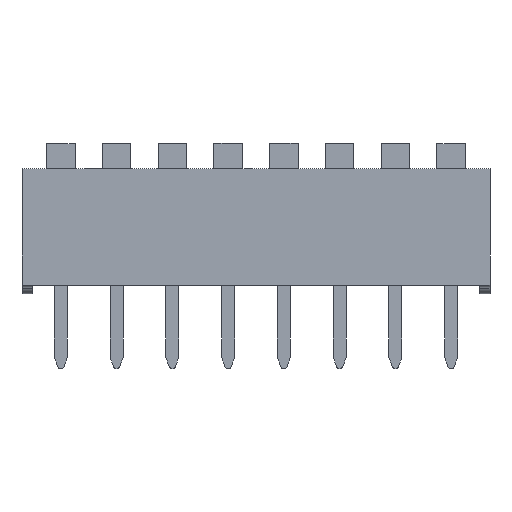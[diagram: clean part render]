
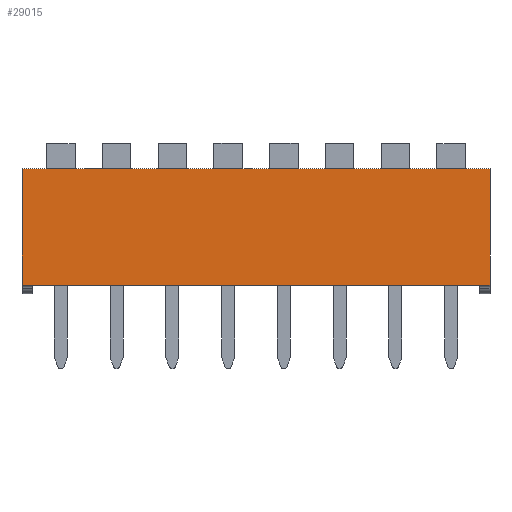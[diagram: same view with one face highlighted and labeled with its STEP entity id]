
A CAD part, front view. The second image highlights one B-rep face of the part: STEP entity #29015.
In plain terms, the highlighted planar face has unit normal (0, -1, 0).
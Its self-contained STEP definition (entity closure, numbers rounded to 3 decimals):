
#13108 = PLANE('',#13109);
#13109 = AXIS2_PLACEMENT_3D('',#13110,#13111,#13112);
#13110 = CARTESIAN_POINT('',(-1.77,8.76,0.4));
#13111 = DIRECTION('',(-1.,0.,0.));
#13112 = DIRECTION('',(0.,-1.,0.));
#13255 = VERTEX_POINT('',#13256);
#13256 = CARTESIAN_POINT('',(-1.77,-1.14,0.4));
#13270 = PLANE('',#13271);
#13271 = AXIS2_PLACEMENT_3D('',#13272,#13273,#13274);
#13272 = CARTESIAN_POINT('',(8.89,3.81,0.4));
#13273 = DIRECTION('',(0.,0.,1.));
#13274 = DIRECTION('',(1.,0.,0.));
#13282 = EDGE_CURVE('',#13255,#13283,#13285,.T.);
#13283 = VERTEX_POINT('',#13284);
#13284 = CARTESIAN_POINT('',(-1.77,-1.14,5.7));
#13285 = SURFACE_CURVE('',#13286,(#13290,#13297),.PCURVE_S1.);
#13286 = LINE('',#13287,#13288);
#13287 = CARTESIAN_POINT('',(-1.77,-1.14,0.4));
#13288 = VECTOR('',#13289,1.);
#13289 = DIRECTION('',(0.,0.,1.));
#13290 = PCURVE('',#13108,#13291);
#13291 = DEFINITIONAL_REPRESENTATION('',(#13292),#13296);
#13292 = LINE('',#13293,#13294);
#13293 = CARTESIAN_POINT('',(9.9,0.));
#13294 = VECTOR('',#13295,1.);
#13295 = DIRECTION('',(0.,1.));
#13296 = ( GEOMETRIC_REPRESENTATION_CONTEXT(2) 
PARAMETRIC_REPRESENTATION_CONTEXT() REPRESENTATION_CONTEXT('2D SPACE',''
  ) );
#13297 = PCURVE('',#13298,#13303);
#13298 = PLANE('',#13299);
#13299 = AXIS2_PLACEMENT_3D('',#13300,#13301,#13302);
#13300 = CARTESIAN_POINT('',(-1.77,-1.14,0.4));
#13301 = DIRECTION('',(0.,-1.,0.));
#13302 = DIRECTION('',(1.,0.,0.));
#13303 = DEFINITIONAL_REPRESENTATION('',(#13304),#13308);
#13304 = LINE('',#13305,#13306);
#13305 = CARTESIAN_POINT('',(0.,0.));
#13306 = VECTOR('',#13307,1.);
#13307 = DIRECTION('',(0.,1.));
#13308 = ( GEOMETRIC_REPRESENTATION_CONTEXT(2) 
PARAMETRIC_REPRESENTATION_CONTEXT() REPRESENTATION_CONTEXT('2D SPACE',''
  ) );
#13326 = PLANE('',#13327);
#13327 = AXIS2_PLACEMENT_3D('',#13328,#13329,#13330);
#13328 = CARTESIAN_POINT('',(8.89,3.81,5.7));
#13329 = DIRECTION('',(0.,0.,1.));
#13330 = DIRECTION('',(1.,0.,0.));
#15031 = EDGE_CURVE('',#13283,#15032,#15034,.T.);
#15032 = VERTEX_POINT('',#15033);
#15033 = CARTESIAN_POINT('',(19.55,-1.14,5.7));
#15034 = SURFACE_CURVE('',#15035,(#15039,#15046),.PCURVE_S1.);
#15035 = LINE('',#15036,#15037);
#15036 = CARTESIAN_POINT('',(19.55,-1.14,5.7));
#15037 = VECTOR('',#15038,1.);
#15038 = DIRECTION('',(1.,0.,0.));
#15039 = PCURVE('',#13326,#15040);
#15040 = DEFINITIONAL_REPRESENTATION('',(#15041),#15045);
#15041 = LINE('',#15042,#15043);
#15042 = CARTESIAN_POINT('',(10.66,-4.95));
#15043 = VECTOR('',#15044,1.);
#15044 = DIRECTION('',(1.,0.));
#15045 = ( GEOMETRIC_REPRESENTATION_CONTEXT(2) 
PARAMETRIC_REPRESENTATION_CONTEXT() REPRESENTATION_CONTEXT('2D SPACE',''
  ) );
#15046 = PCURVE('',#13298,#15047);
#15047 = DEFINITIONAL_REPRESENTATION('',(#15048),#15052);
#15048 = LINE('',#15049,#15050);
#15049 = CARTESIAN_POINT('',(21.32,5.3));
#15050 = VECTOR('',#15051,1.);
#15051 = DIRECTION('',(1.,0.));
#15052 = ( GEOMETRIC_REPRESENTATION_CONTEXT(2) 
PARAMETRIC_REPRESENTATION_CONTEXT() REPRESENTATION_CONTEXT('2D SPACE',''
  ) );
#15070 = PLANE('',#15071);
#15071 = AXIS2_PLACEMENT_3D('',#15072,#15073,#15074);
#15072 = CARTESIAN_POINT('',(19.55,-1.14,0.4));
#15073 = DIRECTION('',(1.,0.,0.));
#15074 = DIRECTION('',(0.,1.,0.));
#25519 = VERTEX_POINT('',#25520);
#25520 = CARTESIAN_POINT('',(19.55,-1.14,0.4));
#25541 = EDGE_CURVE('',#25519,#13255,#25542,.T.);
#25542 = SURFACE_CURVE('',#25543,(#25547,#25554),.PCURVE_S1.);
#25543 = LINE('',#25544,#25545);
#25544 = CARTESIAN_POINT('',(19.55,-1.14,0.4));
#25545 = VECTOR('',#25546,1.);
#25546 = DIRECTION('',(-1.,0.,0.));
#25547 = PCURVE('',#13270,#25548);
#25548 = DEFINITIONAL_REPRESENTATION('',(#25549),#25553);
#25549 = LINE('',#25550,#25551);
#25550 = CARTESIAN_POINT('',(10.66,-4.95));
#25551 = VECTOR('',#25552,1.);
#25552 = DIRECTION('',(-1.,0.));
#25553 = ( GEOMETRIC_REPRESENTATION_CONTEXT(2) 
PARAMETRIC_REPRESENTATION_CONTEXT() REPRESENTATION_CONTEXT('2D SPACE',''
  ) );
#25554 = PCURVE('',#13298,#25555);
#25555 = DEFINITIONAL_REPRESENTATION('',(#25556),#25560);
#25556 = LINE('',#25557,#25558);
#25557 = CARTESIAN_POINT('',(21.32,0.));
#25558 = VECTOR('',#25559,1.);
#25559 = DIRECTION('',(-1.,0.));
#25560 = ( GEOMETRIC_REPRESENTATION_CONTEXT(2) 
PARAMETRIC_REPRESENTATION_CONTEXT() REPRESENTATION_CONTEXT('2D SPACE',''
  ) );
#28981 = EDGE_CURVE('',#25519,#15032,#28982,.T.);
#28982 = SURFACE_CURVE('',#28983,(#28987,#28994),.PCURVE_S1.);
#28983 = LINE('',#28984,#28985);
#28984 = CARTESIAN_POINT('',(19.55,-1.14,0.4));
#28985 = VECTOR('',#28986,1.);
#28986 = DIRECTION('',(0.,0.,1.));
#28987 = PCURVE('',#15070,#28988);
#28988 = DEFINITIONAL_REPRESENTATION('',(#28989),#28993);
#28989 = LINE('',#28990,#28991);
#28990 = CARTESIAN_POINT('',(0.,0.));
#28991 = VECTOR('',#28992,1.);
#28992 = DIRECTION('',(0.,1.));
#28993 = ( GEOMETRIC_REPRESENTATION_CONTEXT(2) 
PARAMETRIC_REPRESENTATION_CONTEXT() REPRESENTATION_CONTEXT('2D SPACE',''
  ) );
#28994 = PCURVE('',#13298,#28995);
#28995 = DEFINITIONAL_REPRESENTATION('',(#28996),#29000);
#28996 = LINE('',#28997,#28998);
#28997 = CARTESIAN_POINT('',(21.32,0.));
#28998 = VECTOR('',#28999,1.);
#28999 = DIRECTION('',(0.,1.));
#29000 = ( GEOMETRIC_REPRESENTATION_CONTEXT(2) 
PARAMETRIC_REPRESENTATION_CONTEXT() REPRESENTATION_CONTEXT('2D SPACE',''
  ) );
#29015 = ADVANCED_FACE('',(#29016),#13298,.T.);
#29016 = FACE_BOUND('',#29017,.T.);
#29017 = EDGE_LOOP('',(#29018,#29019,#29020,#29021));
#29018 = ORIENTED_EDGE('',*,*,#25541,.F.);
#29019 = ORIENTED_EDGE('',*,*,#28981,.T.);
#29020 = ORIENTED_EDGE('',*,*,#15031,.F.);
#29021 = ORIENTED_EDGE('',*,*,#13282,.F.);
